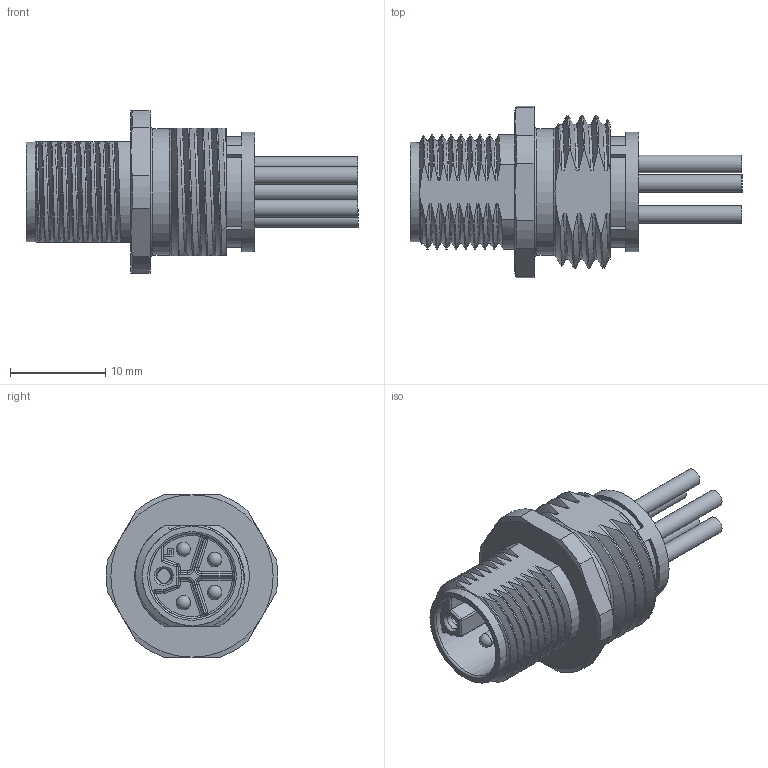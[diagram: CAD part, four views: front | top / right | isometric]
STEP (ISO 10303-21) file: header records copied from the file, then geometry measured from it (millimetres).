
FILE_DESCRIPTION(/* description */ (''),/* implementation_level */ '2;1');
FILE_NAME(/* name */ '09-0641-XXX-05-001_01.stp',/* time_stamp */ '2019-09-19T13:38:37+02:00',/* author */ (''),/* organization */ (''),/* preprocessor_version */ 'ST-DEVELOPER v16',/* originating_system */ 'SIEMENS PLM Software NX 11.0',/* authorisation */ '');
FILE_SCHEMA (('AUTOMOTIVE_DESIGN { 1 0 10303 214 3 1 1 1 }'));
Length unit declared in the file: millimetre
Products named in the file (1): sgro267CDCDF2mmq
Bounding box: 34.8 x 17.96 x 17 mm (x, y, z)
Volume: 2700.8 mm3; surface area: 3042.4 mm2
Topology: 1 solids, 3 shells, 403 faces, 1081 edges, 690 vertices
Faces by surface type: cylinder 168, plane 109, bspline 52, torus 38, cone 20, sphere 16
Full cylindrical faces by diameter (mm): 1.5 x4, 1.6 x1, 1.85 x5, 2.3 x1, 8.9 x1, 10.4 x1, 10.6 x1, 13.3 x1
Entity records: 29481 total; most frequent: CARTESIAN_POINT 20116, ORIENTED_EDGE 2050, DIRECTION 1770, EDGE_CURVE 1025, AXIS2_PLACEMENT_3D 678, VERTEX_POINT 669, EDGE_LOOP 444, LINE 414
